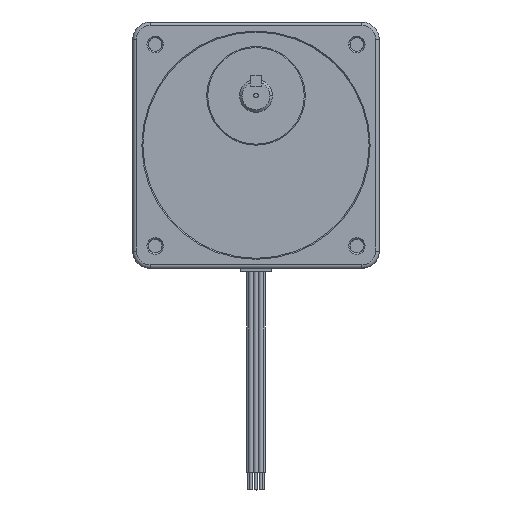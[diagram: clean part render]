
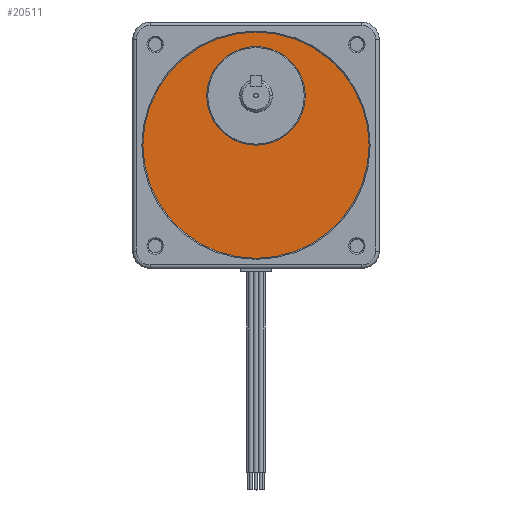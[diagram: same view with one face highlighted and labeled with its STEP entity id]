
A CAD part, top view. The second image highlights one B-rep face of the part: STEP entity #20511.
In plain terms, the highlighted planar face has unit normal (0, 0, 1).
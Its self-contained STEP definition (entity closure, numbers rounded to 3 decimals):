
#584 = EDGE_CURVE ( 'NONE', #1231, #632, #5788, .T. ) ;
#632 = VERTEX_POINT ( 'NONE', #5916 ) ;
#1231 = VERTEX_POINT ( 'NONE', #7980 ) ;
#1238 = ORIENTED_EDGE ( 'NONE', *, *, #7753, .F. ) ;
#3696 = VERTEX_POINT ( 'NONE', #15395 ) ;
#3704 = VERTEX_POINT ( 'NONE', #15384 ) ;
#3715 = EDGE_CURVE ( 'NONE', #3704, #3696, #15415, .T. ) ;
#5780 = DIRECTION ( 'NONE',  ( 1., 0., 0. ) ) ;
#5781 = DIRECTION ( 'NONE',  ( 0., 0., 1. ) ) ;
#5782 = AXIS2_PLACEMENT_3D ( 'NONE', #5792, #5781, #5780 ) ;
#5788 = CIRCLE ( 'NONE', #5782, 17.996 ) ;
#5792 = CARTESIAN_POINT ( 'NONE',  ( 0., 18.009, 41.012 ) ) ;
#5916 = CARTESIAN_POINT ( 'NONE',  ( -17.996, 18.009, 41.012 ) ) ;
#7753 = EDGE_CURVE ( 'NONE', #632, #1231, #17879, .T. ) ;
#7754 = ORIENTED_EDGE ( 'NONE', *, *, #584, .F. ) ;
#7980 = CARTESIAN_POINT ( 'NONE',  ( 17.996, 18.009, 41.012 ) ) ;
#15384 = CARTESIAN_POINT ( 'NONE',  ( -41.275, 0., 41.012 ) ) ;
#15395 = CARTESIAN_POINT ( 'NONE',  ( 41.275, 0., 41.012 ) ) ;
#15403 = CARTESIAN_POINT ( 'NONE',  ( 0., 0., 41.012 ) ) ;
#15415 = CIRCLE ( 'NONE', #15457, 41.275 ) ;
#15438 = DIRECTION ( 'NONE',  ( 1., 0., 0. ) ) ;
#15439 = DIRECTION ( 'NONE',  ( 0., 0., 1. ) ) ;
#15457 = AXIS2_PLACEMENT_3D ( 'NONE', #15403, #15439, #15438 ) ;
#17879 = CIRCLE ( 'NONE', #17928, 17.996 ) ;
#17918 = DIRECTION ( 'NONE',  ( 1., 0., 0. ) ) ;
#17926 = CARTESIAN_POINT ( 'NONE',  ( 0., 18.009, 41.012 ) ) ;
#17928 = AXIS2_PLACEMENT_3D ( 'NONE', #17926, #17931, #17918 ) ;
#17931 = DIRECTION ( 'NONE',  ( 0., 0., 1. ) ) ;
#19359 = PLANE ( 'NONE',  #19389 ) ;
#19379 = FACE_OUTER_BOUND ( 'NONE', #20509, .T. ) ;
#19389 = AXIS2_PLACEMENT_3D ( 'NONE', #19419, #19418, #19417 ) ;
#19390 = FACE_BOUND ( 'NONE', #20498, .T. ) ;
#19417 = DIRECTION ( 'NONE',  ( 1., 0., 0. ) ) ;
#19418 = DIRECTION ( 'NONE',  ( 0., 0., 1. ) ) ;
#19419 = CARTESIAN_POINT ( 'NONE',  ( 0., 0., 41.012 ) ) ;
#19544 = CARTESIAN_POINT ( 'NONE',  ( 0., 0., 41.012 ) ) ;
#19581 = DIRECTION ( 'NONE',  ( 1., 0., 0. ) ) ;
#19588 = DIRECTION ( 'NONE',  ( 0., 0., 1. ) ) ;
#19590 = AXIS2_PLACEMENT_3D ( 'NONE', #19544, #19588, #19581 ) ;
#19597 = CIRCLE ( 'NONE', #19590, 41.275 ) ;
#20498 = EDGE_LOOP ( 'NONE', ( #1238, #7754 ) ) ;
#20499 = ORIENTED_EDGE ( 'NONE', *, *, #3715, .T. ) ;
#20501 = ORIENTED_EDGE ( 'NONE', *, *, #20579, .T. ) ;
#20509 = EDGE_LOOP ( 'NONE', ( #20501, #20499 ) ) ;
#20511 = ADVANCED_FACE ( 'NONE', ( #19379, #19390 ), #19359, .T. ) ;
#20579 = EDGE_CURVE ( 'NONE', #3696, #3704, #19597, .T. ) ;
